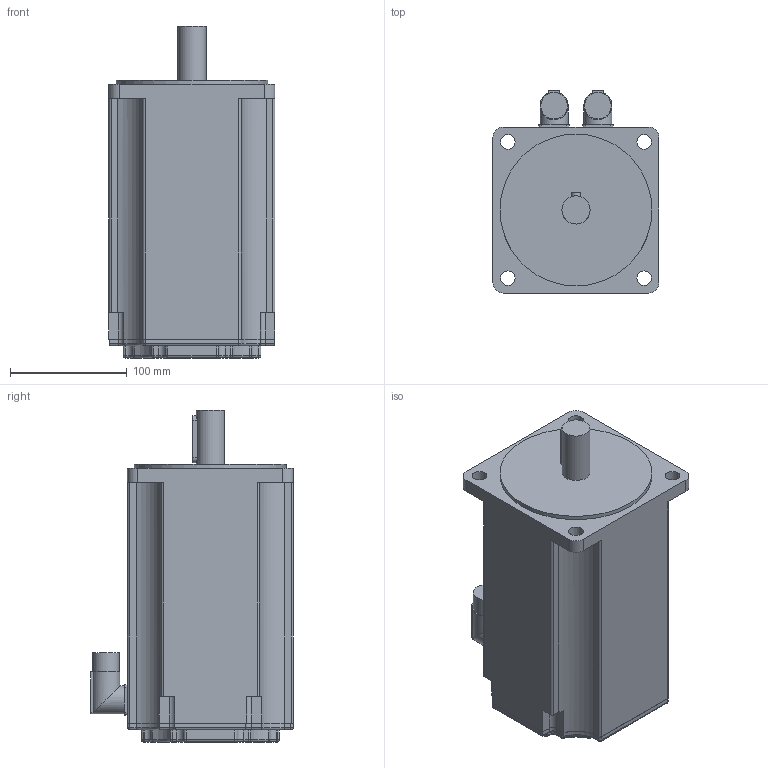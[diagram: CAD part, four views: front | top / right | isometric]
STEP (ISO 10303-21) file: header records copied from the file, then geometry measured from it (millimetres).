
FILE_DESCRIPTION(/* description */ (''),/* implementation_level */ '2;1');
FILE_NAME(/* name */ '\\Lafnas01\disegni\Archivi Lafert\3D\CAD 3D\MODELLI\Assiemi clienti\Serad\Modelli 3D Serad\B71Q\Encoder\Enc Without Brake\B7116Qxx6ARx2033.ipt.stp',/* time_stamp */ '2015-09-07T10:52:29+02:00',/* author */ ('Pastrello Ylenia'),/* organization */ (''),/* preprocessor_version */ 'ST-DEVELOPER v15.6',/* originating_system */ 'Autodesk Inventor 2015',/* authorisation */ '');
FILE_SCHEMA (('AUTOMOTIVE_DESIGN { 1 0 10303 214 3 1 1 }'));
Length unit declared in the file: millimetre
Products named in the file (1): B7116Qxx6ARx2033
Bounding box: 142 x 173.5 x 284 mm (x, y, z)
Volume: 4133865.5 mm3; surface area: 174934.1 mm2
Topology: 1 solids, 1 shells, 251 faces, 624 edges, 386 vertices
Faces by surface type: cylinder 118, plane 93, torus 20, sphere 20
Full cylindrical faces by diameter (mm): 12.5 x4, 22.7 x2, 24 x3, 130 x1
Entity records: 7508 total; most frequent: CARTESIAN_POINT 1382, DIRECTION 1362, ORIENTED_EDGE 1220, EDGE_CURVE 610, AXIS2_PLACEMENT_3D 510, VERTEX_POINT 382, LINE 342, VECTOR 342
